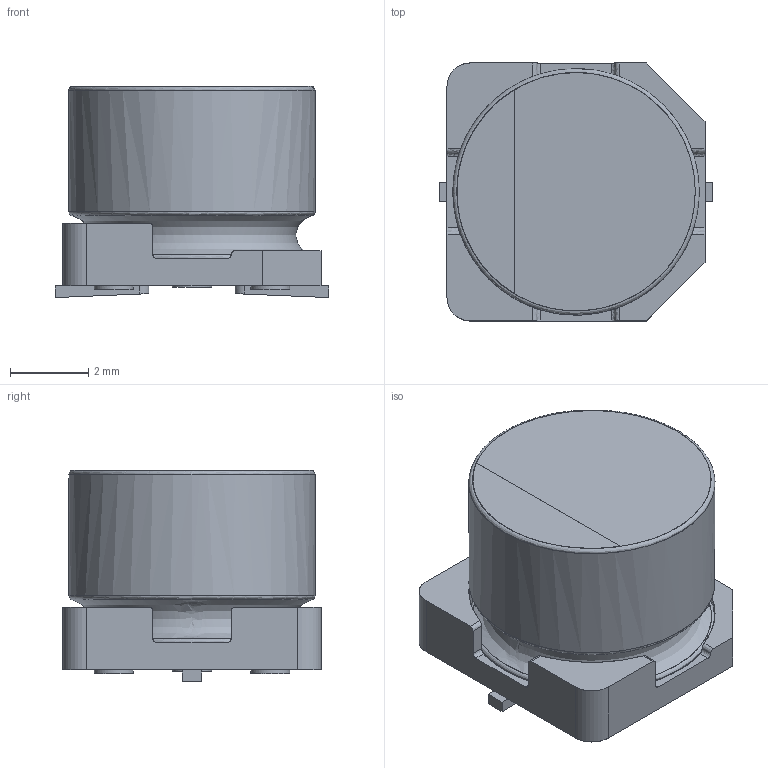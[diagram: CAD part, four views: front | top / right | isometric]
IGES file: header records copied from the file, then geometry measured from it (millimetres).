
Start section: JAMA-IS VERSION  1.0
Bounding box: 7 x 6.6 x 5.4 mm (x, y, z)
Surface area: 291.4 mm2 (no closed solid volume)
Topology: 0 solids, 0 shells, 74 faces, 994 edges, 976 vertices
Faces by surface type: bspline 74
